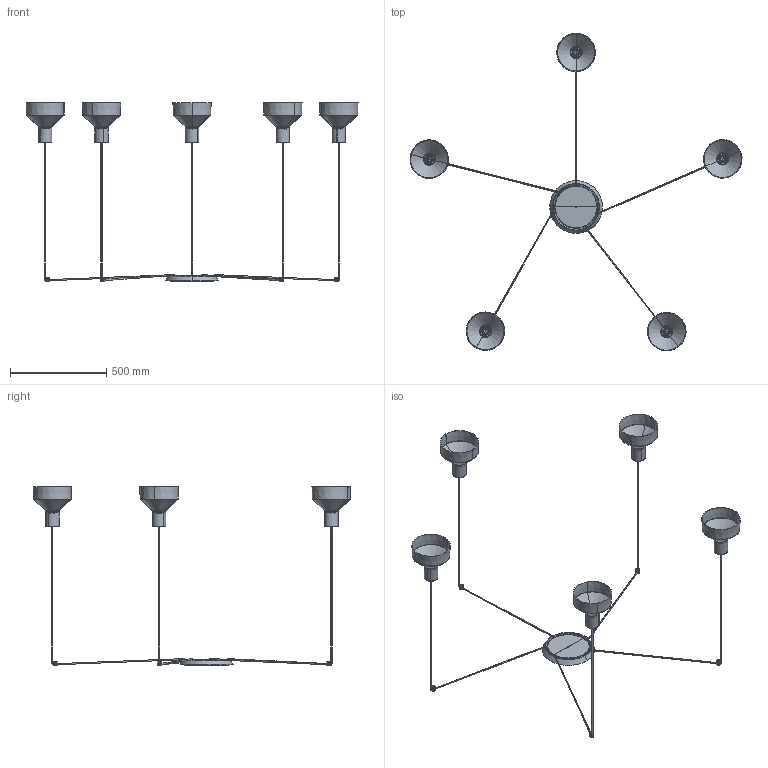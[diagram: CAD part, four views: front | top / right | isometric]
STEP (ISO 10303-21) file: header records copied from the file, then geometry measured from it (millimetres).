
FILE_DESCRIPTION(/* description */ (''),/* implementation_level */ '2;1');
FILE_NAME(/* name */ 'C:\Users\Franco Sartori E\Documents\FARO\DUPLICADO\Modelos\01_Digitalizados\2021\KOMBO\03_Publicación\68593-5L.stp',/* time_stamp */ '2021-02-25T10:13:22+01:00',/* author */ ('Franco Sartori E'),/* organization */ (''),/* preprocessor_version */ 'ST-DEVELOPER v18.1',/* originating_system */ 'AutoCAD Mechanical',/* authorisation */ '');
FILE_SCHEMA (('AUTOMOTIVE_DESIGN { 1 0 10303 214 3 1 1 }'));
Products named in the file (7): Product; CANOPY_5 - 68603-408783-_3D_; KOMBO200FMA - LH-415494-_3D_; KOMBO200FMA - LH-415497-_3D_; KOMBO200FMA - LH-415500-_3D_; KOMBO200FMA - LH-415503-_3D_; KOMBO200FMA - LH-415506-_3D_
Assembly tree (6 placements, depth 2):
  Product
    CANOPY_5 - 68603-408783-_3D_
    KOMBO200FMA - LH-415494-_3D_
    KOMBO200FMA - LH-415497-_3D_
    KOMBO200FMA - LH-415500-_3D_
    KOMBO200FMA - LH-415503-_3D_
    KOMBO200FMA - LH-415506-_3D_
Bounding box: 1721.69 x 1647.72 x 924.93 mm (x, y, z)
Volume: 1420755.4 mm3; surface area: 2417776.8 mm2
Topology: 67 solids, 67 shells, 1357 faces, 3175 edges, 1886 vertices
Faces by surface type: plane 488, cylinder 467, torus 218, cone 184
Entity records: 52860 total; most frequent: CARTESIAN_POINT 23193, ORIENTED_EDGE 6330, DIRECTION 5769, EDGE_CURVE 3165, AXIS2_PLACEMENT_3D 2301, VERTEX_POINT 1886, EDGE_LOOP 1431, FACE_OUTER_BOUND 1357
